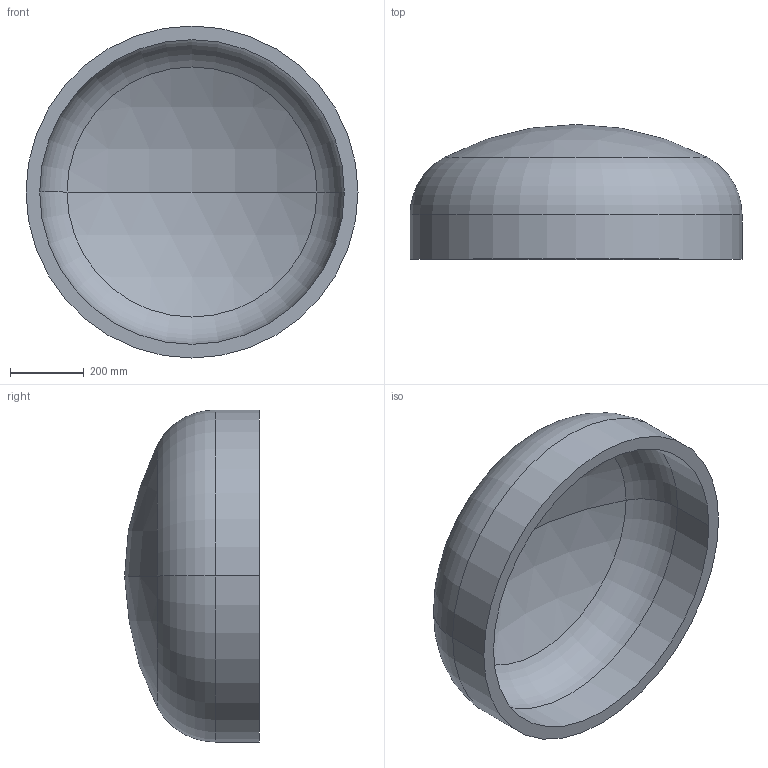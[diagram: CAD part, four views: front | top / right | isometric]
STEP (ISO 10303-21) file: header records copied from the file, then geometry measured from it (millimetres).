
FILE_DESCRIPTION (( 'STEP AP203' ), '1' );
FILE_NAME ('DIN 28013 Korbbogenform_-_Boden DIN 28013 - 900 x 120 - I - s=37.step', '2016-07-01T08:30:44', ( '' ), ( '' ), 'SwSTEP 2.0', 'SolidWorks 2013', '' );
FILE_SCHEMA (( 'CONFIG_CONTROL_DESIGN' ));
Length unit declared in the file: millimetre
Products named in the file (1): DIN 28013 Korbbogenform_-_Boden DIN 28013 - 900 x 120 - I - s=37
Bounding box: 900 x 365.27 x 900 mm (x, y, z)
Volume: 43011879.8 mm3; surface area: 2428147.4 mm2
Topology: 1 solids, 1 shells, 13 faces, 24 edges, 14 vertices
Faces by surface type: torus 4, cylinder 4, sphere 4, plane 1
Entity records: 407 total; most frequent: DIRECTION 72, CARTESIAN_POINT 52, ORIENTED_EDGE 48, AXIS2_PLACEMENT_3D 34, EDGE_CURVE 24, CIRCLE 20, VERTEX_POINT 14, EDGE_LOOP 14
